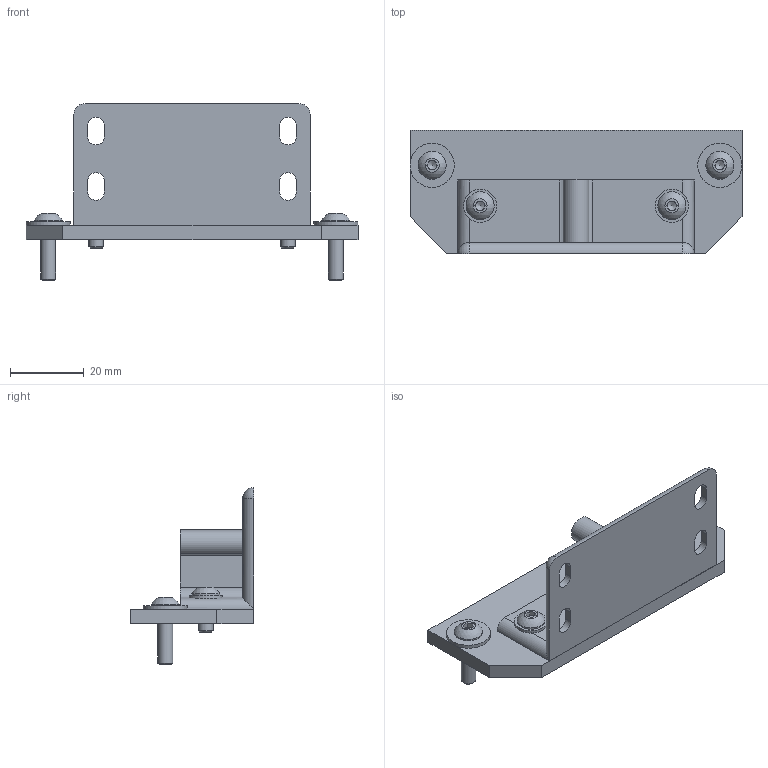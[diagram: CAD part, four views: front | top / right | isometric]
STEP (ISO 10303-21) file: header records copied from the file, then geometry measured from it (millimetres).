
FILE_DESCRIPTION (( 'STEP AP214' ), '1' );
FILE_NAME ('L19170 CLE AVEC SUPPORT.step', '2024-12-03T16:24:45', ( '' ), ( '' ), 'SwSTEP 2.0', 'SolidWorks 2023', '' );
FILE_SCHEMA (( 'AUTOMOTIVE_DESIGN' ));
Length unit declared in the file: millimetre
Products named in the file (7): AMA25-001-SUPPORT BLOC PORTE; plain washer 10669 type nl_APC_Rondelle plate - N - M4; L19170 CLE AVEC SUPPORT; socket button head screw_APC_Vis BHC - M4 x 16 - 16N; socket button head screw_APC_Vis BHC - M4 x 10 - 10N; plain washer 10669 type nl_APC_Rondelle plate - L - M4; L19170-verrou_porte
Assembly tree (10 placements, depth 2):
  L19170 CLE AVEC SUPPORT
    AMA25-001-SUPPORT BLOC PORTE
    L19170-verrou_porte
    plain washer 10669 type nl_APC_Rondelle plate - L - M4  x2
    plain washer 10669 type nl_APC_Rondelle plate - N - M4  x2
    socket button head screw_APC_Vis BHC - M4 x 16 - 16N  x2
    socket button head screw_APC_Vis BHC - M4 x 10 - 10N  x2
Bounding box: 90 x 33.5 x 48 mm (x, y, z)
Volume: 22538.3 mm3; surface area: 16305.3 mm2
Topology: 10 solids, 10 shells, 188 faces, 444 edges, 282 vertices
Faces by surface type: plane 110, cylinder 60, cone 8, sphere 6, torus 4
Full cylindrical faces by diameter (mm): 3.3 x2, 4 x4, 4.3 x4, 4.5 x2, 7.6 x4, 9 x2, 12 x2
Entity records: 4630 total; most frequent: CARTESIAN_POINT 1051, DIRECTION 732, ORIENTED_EDGE 648, EDGE_CURVE 324, AXIS2_PLACEMENT_3D 271, VERTEX_POINT 220, VECTOR 190, LINE 190
